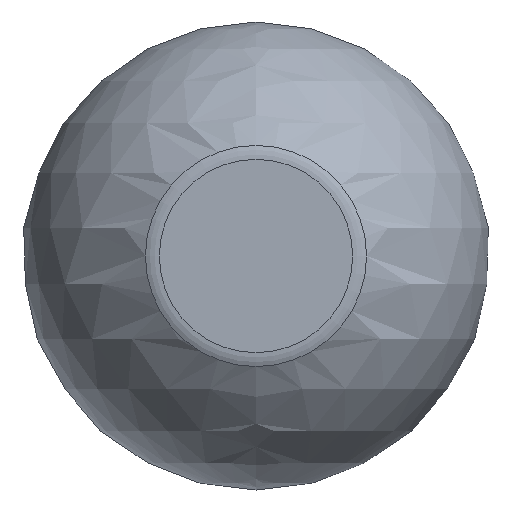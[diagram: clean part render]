
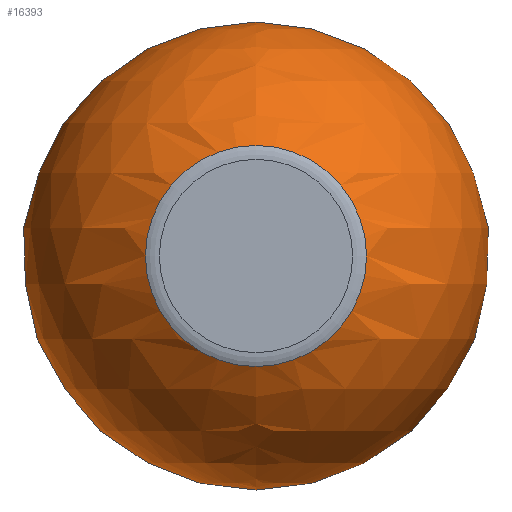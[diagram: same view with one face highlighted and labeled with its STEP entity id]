
A CAD part, left-side view. The second image highlights one B-rep face of the part: STEP entity #16393.
In plain terms, the highlighted spherical face has radius 12.179 mm.
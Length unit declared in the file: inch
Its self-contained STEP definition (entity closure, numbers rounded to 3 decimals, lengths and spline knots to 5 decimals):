
#1379=SPHERICAL_SURFACE('',#17437,0.4795);
#1506=FACE_BOUND('',#2972,.T.);
#2022=FACE_OUTER_BOUND('',#2971,.T.);
#2971=EDGE_LOOP('',(#11211,#11212,#11213,#11214,#11215,#11216,#11217));
#2972=EDGE_LOOP('',(#11218));
#6408=CIRCLE('',#17424,0.26464);
#6413=CIRCLE('',#17433,0.2265);
#6414=CIRCLE('',#17434,0.2265);
#6415=CIRCLE('',#17435,0.2265);
#6417=CIRCLE('',#17438,0.4795);
#6418=CIRCLE('',#17439,0.4795);
#6875=VERTEX_POINT('',#22020);
#6881=VERTEX_POINT('',#22037);
#6882=VERTEX_POINT('',#22038);
#6883=VERTEX_POINT('',#22040);
#6884=VERTEX_POINT('',#22045);
#6885=VERTEX_POINT('',#22047);
#8605=EDGE_CURVE('',#6875,#6875,#6408,.T.);
#8612=EDGE_CURVE('',#6881,#6882,#6413,.T.);
#8613=EDGE_CURVE('',#6883,#6881,#6414,.T.);
#8614=EDGE_CURVE('',#6882,#6883,#6415,.T.);
#8616=EDGE_CURVE('',#6884,#6882,#6417,.T.);
#8617=EDGE_CURVE('',#6883,#6885,#6418,.T.);
#11211=ORIENTED_EDGE('',*,*,#8612,.T.);
#11212=ORIENTED_EDGE('',*,*,#8616,.F.);
#11213=ORIENTED_EDGE('',*,*,#8616,.T.);
#11214=ORIENTED_EDGE('',*,*,#8614,.T.);
#11215=ORIENTED_EDGE('',*,*,#8617,.T.);
#11216=ORIENTED_EDGE('',*,*,#8617,.F.);
#11217=ORIENTED_EDGE('',*,*,#8613,.T.);
#11218=ORIENTED_EDGE('',*,*,#8605,.T.);
#16393=ADVANCED_FACE('',(#2022,#1506),#1379,.T.);
#17424=AXIS2_PLACEMENT_3D('',#22021,#18561,#18562);
#17433=AXIS2_PLACEMENT_3D('',#22039,#18581,#18582);
#17434=AXIS2_PLACEMENT_3D('',#22041,#18583,#18584);
#17435=AXIS2_PLACEMENT_3D('',#22042,#18585,#18586);
#17437=AXIS2_PLACEMENT_3D('',#22044,#18589,#18590);
#17438=AXIS2_PLACEMENT_3D('',#22046,#18591,#18592);
#17439=AXIS2_PLACEMENT_3D('',#22048,#18593,#18594);
#18561=DIRECTION('center_axis',(-1.,0.,0.));
#18562=DIRECTION('ref_axis',(0.,0.,-1.));
#18581=DIRECTION('center_axis',(1.,0.,0.));
#18582=DIRECTION('ref_axis',(0.,0.,-1.));
#18583=DIRECTION('center_axis',(1.,0.,0.));
#18584=DIRECTION('ref_axis',(0.,0.,-1.));
#18585=DIRECTION('center_axis',(1.,0.,0.));
#18586=DIRECTION('ref_axis',(0.,0.,-1.));
#18589=DIRECTION('center_axis',(0.,0.,1.));
#18590=DIRECTION('ref_axis',(1.,0.,0.));
#18591=DIRECTION('center_axis',(0.,-1.,0.));
#18592=DIRECTION('ref_axis',(-1.,0.,0.));
#18593=DIRECTION('center_axis',(0.,-1.,0.));
#18594=DIRECTION('ref_axis',(-1.,0.,0.));
#22020=CARTESIAN_POINT('',(-0.46231,0.14868,0.));
#22021=CARTESIAN_POINT('Origin',(-0.46231,0.41332,0.));
#22037=CARTESIAN_POINT('',(-1.2848,0.63982,0.));
#22038=CARTESIAN_POINT('',(-1.2848,0.41332,0.2265));
#22039=CARTESIAN_POINT('Origin',(-1.2848,0.41332,0.));
#22040=CARTESIAN_POINT('',(-1.2848,0.41332,-0.2265));
#22041=CARTESIAN_POINT('Origin',(-1.2848,0.41332,0.));
#22042=CARTESIAN_POINT('Origin',(-1.2848,0.41332,0.));
#22044=CARTESIAN_POINT('Origin',(-0.86217,0.41332,0.));
#22045=CARTESIAN_POINT('',(-0.86217,0.41332,0.4795));
#22046=CARTESIAN_POINT('Origin',(-0.86217,0.41332,0.));
#22047=CARTESIAN_POINT('',(-0.86217,0.41332,-0.4795));
#22048=CARTESIAN_POINT('Origin',(-0.86217,0.41332,0.));
